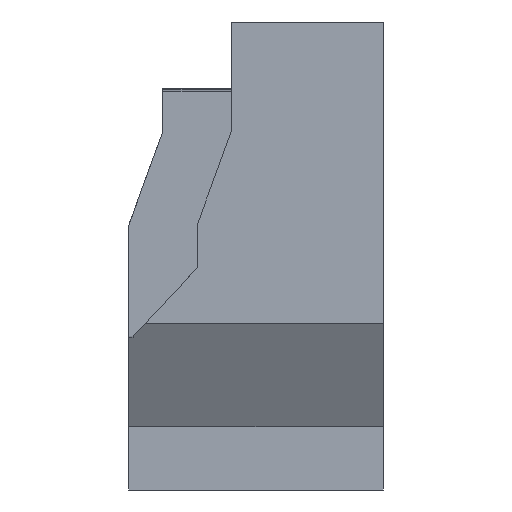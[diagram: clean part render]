
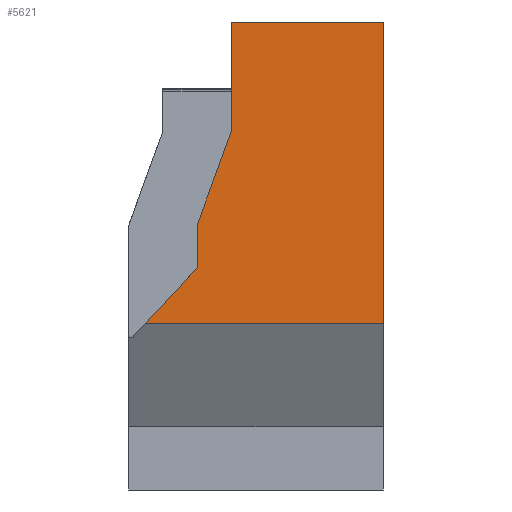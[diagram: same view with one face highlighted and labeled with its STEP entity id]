
A CAD part, front view. The second image highlights one B-rep face of the part: STEP entity #5621.
In plain terms, the highlighted planar face has unit normal (0, -1, 0).
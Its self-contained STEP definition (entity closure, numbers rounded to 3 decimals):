
#32 = PLANE('',#33);
#33 = AXIS2_PLACEMENT_3D('',#34,#35,#36);
#34 = CARTESIAN_POINT('',(15.,-190.,-0.1));
#35 = DIRECTION('',(1.,0.,-0.));
#36 = DIRECTION('',(0.,0.,1.));
#107 = VERTEX_POINT('',#108);
#108 = CARTESIAN_POINT('',(15.,-179.2,27.4));
#121 = PLANE('',#122);
#122 = AXIS2_PLACEMENT_3D('',#123,#124,#125);
#123 = CARTESIAN_POINT('',(0.,-3.046,27.4));
#124 = DIRECTION('',(0.,0.,1.));
#125 = DIRECTION('',(1.,0.,-0.));
#132 = EDGE_CURVE('',#133,#107,#135,.T.);
#133 = VERTEX_POINT('',#134);
#134 = CARTESIAN_POINT('',(15.,-179.2,9.762));
#135 = SURFACE_CURVE('',#136,(#140,#146),.PCURVE_S1.);
#136 = LINE('',#137,#138);
#137 = CARTESIAN_POINT('',(15.,-179.2,12.425));
#138 = VECTOR('',#139,1.);
#139 = DIRECTION('',(0.,-0.,1.));
#140 = PCURVE('',#32,#141);
#141 = DEFINITIONAL_REPRESENTATION('',(#142),#145);
#142 = B_SPLINE_CURVE_WITH_KNOTS('',1,(#143,#144),.UNSPECIFIED.,.F.,.F.,
  (2,2),(-2.663,14.975),.PIECEWISE_BEZIER_KNOTS.);
#143 = CARTESIAN_POINT('',(9.862,-10.8));
#144 = CARTESIAN_POINT('',(27.5,-10.8));
#145 = ( GEOMETRIC_REPRESENTATION_CONTEXT(2) 
PARAMETRIC_REPRESENTATION_CONTEXT() REPRESENTATION_CONTEXT('2D SPACE',''
  ) );
#146 = PCURVE('',#147,#152);
#147 = PLANE('',#148);
#148 = AXIS2_PLACEMENT_3D('',#149,#150,#151);
#149 = CARTESIAN_POINT('',(-195.2,-179.2,24.95));
#150 = DIRECTION('',(0.,1.,0.));
#151 = DIRECTION('',(1.,0.,0.));
#152 = DEFINITIONAL_REPRESENTATION('',(#153),#156);
#153 = B_SPLINE_CURVE_WITH_KNOTS('',1,(#154,#155),.UNSPECIFIED.,.F.,.F.,
  (2,2),(-2.663,14.975),.PIECEWISE_BEZIER_KNOTS.);
#154 = CARTESIAN_POINT('',(210.2,15.188));
#155 = CARTESIAN_POINT('',(210.2,-2.45));
#156 = ( GEOMETRIC_REPRESENTATION_CONTEXT(2) 
PARAMETRIC_REPRESENTATION_CONTEXT() REPRESENTATION_CONTEXT('2D SPACE',''
  ) );
#173 = PLANE('',#174);
#174 = AXIS2_PLACEMENT_3D('',#175,#176,#177);
#175 = CARTESIAN_POINT('',(0.,-177.45,6.731));
#176 = DIRECTION('',(0.,-0.866,-0.5));
#177 = DIRECTION('',(1.,0.,0.));
#5500 = EDGE_CURVE('',#5501,#133,#5503,.T.);
#5501 = VERTEX_POINT('',#5502);
#5502 = CARTESIAN_POINT('',(1.065,-179.2,9.762));
#5503 = SURFACE_CURVE('',#5504,(#5508,#5515),.PCURVE_S1.);
#5504 = LINE('',#5505,#5506);
#5505 = CARTESIAN_POINT('',(-195.2,-179.2,9.762));
#5506 = VECTOR('',#5507,1.);
#5507 = DIRECTION('',(1.,0.,0.));
#5508 = PCURVE('',#173,#5509);
#5509 = DEFINITIONAL_REPRESENTATION('',(#5510),#5514);
#5510 = LINE('',#5511,#5512);
#5511 = CARTESIAN_POINT('',(-195.2,3.5));
#5512 = VECTOR('',#5513,1.);
#5513 = DIRECTION('',(1.,0.));
#5514 = ( GEOMETRIC_REPRESENTATION_CONTEXT(2) 
PARAMETRIC_REPRESENTATION_CONTEXT() REPRESENTATION_CONTEXT('2D SPACE',''
  ) );
#5515 = PCURVE('',#147,#5516);
#5516 = DEFINITIONAL_REPRESENTATION('',(#5517),#5521);
#5517 = LINE('',#5518,#5519);
#5518 = CARTESIAN_POINT('',(0.,15.188));
#5519 = VECTOR('',#5520,1.);
#5520 = DIRECTION('',(1.,0.));
#5521 = ( GEOMETRIC_REPRESENTATION_CONTEXT(2) 
PARAMETRIC_REPRESENTATION_CONTEXT() REPRESENTATION_CONTEXT('2D SPACE',''
  ) );
#5538 = PLANE('',#5539);
#5539 = AXIS2_PLACEMENT_3D('',#5540,#5541,#5542);
#5540 = CARTESIAN_POINT('',(4.1,-177.5,13.));
#5541 = DIRECTION('',(-0.73,0.,0.684));
#5542 = DIRECTION('',(0.,-1.,0.));
#5621 = ADVANCED_FACE('',(#5622),#147,.F.);
#5622 = FACE_BOUND('',#5623,.F.);
#5623 = EDGE_LOOP('',(#5624,#5625,#5626,#5647,#5673,#5699,#5725));
#5624 = ORIENTED_EDGE('',*,*,#132,.F.);
#5625 = ORIENTED_EDGE('',*,*,#5500,.F.);
#5626 = ORIENTED_EDGE('',*,*,#5627,.T.);
#5627 = EDGE_CURVE('',#5501,#5628,#5630,.T.);
#5628 = VERTEX_POINT('',#5629);
#5629 = CARTESIAN_POINT('',(4.1,-179.2,13.));
#5630 = SURFACE_CURVE('',#5631,(#5635,#5641),.PCURVE_S1.);
#5631 = LINE('',#5632,#5633);
#5632 = CARTESIAN_POINT('',(-39.533,-179.2,-33.541));
#5633 = VECTOR('',#5634,1.);
#5634 = DIRECTION('',(0.684,-0.,0.73));
#5635 = PCURVE('',#147,#5636);
#5636 = DEFINITIONAL_REPRESENTATION('',(#5637),#5640);
#5637 = B_SPLINE_CURVE_WITH_KNOTS('',1,(#5638,#5639),.UNSPECIFIED.,.F.,
  .F.,(2,2),(59.358,63.796),.PIECEWISE_BEZIER_KNOTS.);
#5638 = CARTESIAN_POINT('',(196.265,15.188));
#5639 = CARTESIAN_POINT('',(199.3,11.95));
#5640 = ( GEOMETRIC_REPRESENTATION_CONTEXT(2) 
PARAMETRIC_REPRESENTATION_CONTEXT() REPRESENTATION_CONTEXT('2D SPACE',''
  ) );
#5641 = PCURVE('',#5538,#5642);
#5642 = DEFINITIONAL_REPRESENTATION('',(#5643),#5646);
#5643 = B_SPLINE_CURVE_WITH_KNOTS('',1,(#5644,#5645),.UNSPECIFIED.,.F.,
  .F.,(2,2),(59.358,63.796),.PIECEWISE_BEZIER_KNOTS.);
#5644 = CARTESIAN_POINT('',(1.7,-4.438));
#5645 = CARTESIAN_POINT('',(1.7,0.));
#5646 = ( GEOMETRIC_REPRESENTATION_CONTEXT(2) 
PARAMETRIC_REPRESENTATION_CONTEXT() REPRESENTATION_CONTEXT('2D SPACE',''
  ) );
#5647 = ORIENTED_EDGE('',*,*,#5648,.T.);
#5648 = EDGE_CURVE('',#5628,#5649,#5651,.T.);
#5649 = VERTEX_POINT('',#5650);
#5650 = CARTESIAN_POINT('',(4.1,-179.2,15.5));
#5651 = SURFACE_CURVE('',#5652,(#5656,#5662),.PCURVE_S1.);
#5652 = LINE('',#5653,#5654);
#5653 = CARTESIAN_POINT('',(4.1,-179.2,20.225));
#5654 = VECTOR('',#5655,1.);
#5655 = DIRECTION('',(0.,-0.,1.));
#5656 = PCURVE('',#147,#5657);
#5657 = DEFINITIONAL_REPRESENTATION('',(#5658),#5661);
#5658 = B_SPLINE_CURVE_WITH_KNOTS('',1,(#5659,#5660),.UNSPECIFIED.,.F.,
  .F.,(2,2),(-7.225,-4.725),.PIECEWISE_BEZIER_KNOTS.);
#5659 = CARTESIAN_POINT('',(199.3,11.95));
#5660 = CARTESIAN_POINT('',(199.3,9.45));
#5661 = ( GEOMETRIC_REPRESENTATION_CONTEXT(2) 
PARAMETRIC_REPRESENTATION_CONTEXT() REPRESENTATION_CONTEXT('2D SPACE',''
  ) );
#5662 = PCURVE('',#5663,#5668);
#5663 = PLANE('',#5664);
#5664 = AXIS2_PLACEMENT_3D('',#5665,#5666,#5667);
#5665 = CARTESIAN_POINT('',(4.1,-177.5,15.5));
#5666 = DIRECTION('',(-1.,0.,0.));
#5667 = DIRECTION('',(0.,-1.,0.));
#5668 = DEFINITIONAL_REPRESENTATION('',(#5669),#5672);
#5669 = B_SPLINE_CURVE_WITH_KNOTS('',1,(#5670,#5671),.UNSPECIFIED.,.F.,
  .F.,(2,2),(-7.225,-4.725),.PIECEWISE_BEZIER_KNOTS.);
#5670 = CARTESIAN_POINT('',(1.7,-2.5));
#5671 = CARTESIAN_POINT('',(1.7,0.));
#5672 = ( GEOMETRIC_REPRESENTATION_CONTEXT(2) 
PARAMETRIC_REPRESENTATION_CONTEXT() REPRESENTATION_CONTEXT('2D SPACE',''
  ) );
#5673 = ORIENTED_EDGE('',*,*,#5674,.T.);
#5674 = EDGE_CURVE('',#5649,#5675,#5677,.T.);
#5675 = VERTEX_POINT('',#5676);
#5676 = CARTESIAN_POINT('',(6.1,-179.2,21.));
#5677 = SURFACE_CURVE('',#5678,(#5682,#5688),.PCURVE_S1.);
#5678 = LINE('',#5679,#5680);
#5679 = CARTESIAN_POINT('',(-5.02,-179.2,-9.581));
#5680 = VECTOR('',#5681,1.);
#5681 = DIRECTION('',(0.342,-0.,0.94));
#5682 = PCURVE('',#147,#5683);
#5683 = DEFINITIONAL_REPRESENTATION('',(#5684),#5687);
#5684 = B_SPLINE_CURVE_WITH_KNOTS('',1,(#5685,#5686),.UNSPECIFIED.,.F.,
  .F.,(2,2),(26.688,32.54),.PIECEWISE_BEZIER_KNOTS.);
#5685 = CARTESIAN_POINT('',(199.3,9.45));
#5686 = CARTESIAN_POINT('',(201.3,3.95));
#5687 = ( GEOMETRIC_REPRESENTATION_CONTEXT(2) 
PARAMETRIC_REPRESENTATION_CONTEXT() REPRESENTATION_CONTEXT('2D SPACE',''
  ) );
#5688 = PCURVE('',#5689,#5694);
#5689 = PLANE('',#5690);
#5690 = AXIS2_PLACEMENT_3D('',#5691,#5692,#5693);
#5691 = CARTESIAN_POINT('',(6.1,-177.5,21.));
#5692 = DIRECTION('',(-0.94,0.,0.342));
#5693 = DIRECTION('',(0.,-1.,0.));
#5694 = DEFINITIONAL_REPRESENTATION('',(#5695),#5698);
#5695 = B_SPLINE_CURVE_WITH_KNOTS('',1,(#5696,#5697),.UNSPECIFIED.,.F.,
  .F.,(2,2),(26.688,32.54),.PIECEWISE_BEZIER_KNOTS.);
#5696 = CARTESIAN_POINT('',(1.7,-5.852));
#5697 = CARTESIAN_POINT('',(1.7,0.));
#5698 = ( GEOMETRIC_REPRESENTATION_CONTEXT(2) 
PARAMETRIC_REPRESENTATION_CONTEXT() REPRESENTATION_CONTEXT('2D SPACE',''
  ) );
#5699 = ORIENTED_EDGE('',*,*,#5700,.T.);
#5700 = EDGE_CURVE('',#5675,#5701,#5703,.T.);
#5701 = VERTEX_POINT('',#5702);
#5702 = CARTESIAN_POINT('',(6.1,-179.2,27.4));
#5703 = SURFACE_CURVE('',#5704,(#5708,#5714),.PCURVE_S1.);
#5704 = LINE('',#5705,#5706);
#5705 = CARTESIAN_POINT('',(6.1,-179.2,24.15));
#5706 = VECTOR('',#5707,1.);
#5707 = DIRECTION('',(0.,-0.,1.));
#5708 = PCURVE('',#147,#5709);
#5709 = DEFINITIONAL_REPRESENTATION('',(#5710),#5713);
#5710 = B_SPLINE_CURVE_WITH_KNOTS('',1,(#5711,#5712),.UNSPECIFIED.,.F.,
  .F.,(2,2),(-3.15,3.25),.PIECEWISE_BEZIER_KNOTS.);
#5711 = CARTESIAN_POINT('',(201.3,3.95));
#5712 = CARTESIAN_POINT('',(201.3,-2.45));
#5713 = ( GEOMETRIC_REPRESENTATION_CONTEXT(2) 
PARAMETRIC_REPRESENTATION_CONTEXT() REPRESENTATION_CONTEXT('2D SPACE',''
  ) );
#5714 = PCURVE('',#5715,#5720);
#5715 = PLANE('',#5716);
#5716 = AXIS2_PLACEMENT_3D('',#5717,#5718,#5719);
#5717 = CARTESIAN_POINT('',(6.1,-177.5,23.35));
#5718 = DIRECTION('',(-1.,0.,0.));
#5719 = DIRECTION('',(0.,-1.,0.));
#5720 = DEFINITIONAL_REPRESENTATION('',(#5721),#5724);
#5721 = B_SPLINE_CURVE_WITH_KNOTS('',1,(#5722,#5723),.UNSPECIFIED.,.F.,
  .F.,(2,2),(-3.15,3.25),.PIECEWISE_BEZIER_KNOTS.);
#5722 = CARTESIAN_POINT('',(1.7,-2.35));
#5723 = CARTESIAN_POINT('',(1.7,4.05));
#5724 = ( GEOMETRIC_REPRESENTATION_CONTEXT(2) 
PARAMETRIC_REPRESENTATION_CONTEXT() REPRESENTATION_CONTEXT('2D SPACE',''
  ) );
#5725 = ORIENTED_EDGE('',*,*,#5726,.T.);
#5726 = EDGE_CURVE('',#5701,#107,#5727,.T.);
#5727 = SURFACE_CURVE('',#5728,(#5732,#5739),.PCURVE_S1.);
#5728 = LINE('',#5729,#5730);
#5729 = CARTESIAN_POINT('',(-195.2,-179.2,27.4));
#5730 = VECTOR('',#5731,1.);
#5731 = DIRECTION('',(1.,0.,0.));
#5732 = PCURVE('',#147,#5733);
#5733 = DEFINITIONAL_REPRESENTATION('',(#5734),#5738);
#5734 = LINE('',#5735,#5736);
#5735 = CARTESIAN_POINT('',(0.,-2.45));
#5736 = VECTOR('',#5737,1.);
#5737 = DIRECTION('',(1.,0.));
#5738 = ( GEOMETRIC_REPRESENTATION_CONTEXT(2) 
PARAMETRIC_REPRESENTATION_CONTEXT() REPRESENTATION_CONTEXT('2D SPACE',''
  ) );
#5739 = PCURVE('',#121,#5740);
#5740 = DEFINITIONAL_REPRESENTATION('',(#5741),#5745);
#5741 = LINE('',#5742,#5743);
#5742 = CARTESIAN_POINT('',(-195.2,-176.154));
#5743 = VECTOR('',#5744,1.);
#5744 = DIRECTION('',(1.,0.));
#5745 = ( GEOMETRIC_REPRESENTATION_CONTEXT(2) 
PARAMETRIC_REPRESENTATION_CONTEXT() REPRESENTATION_CONTEXT('2D SPACE',''
  ) );
